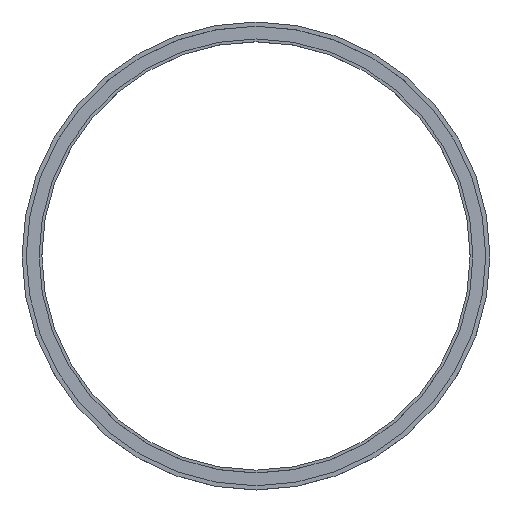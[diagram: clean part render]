
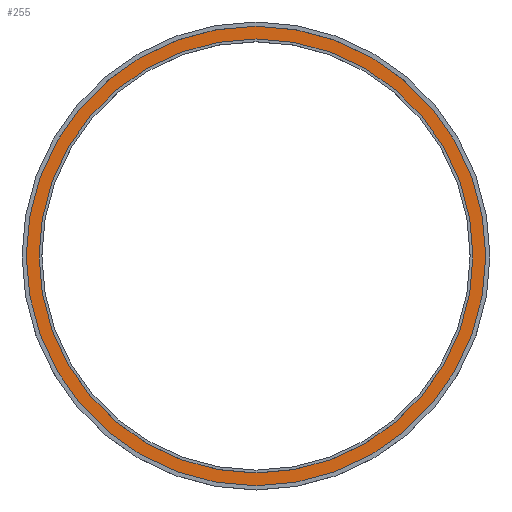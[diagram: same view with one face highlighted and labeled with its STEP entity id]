
A CAD part, top view. The second image highlights one B-rep face of the part: STEP entity #255.
In plain terms, the highlighted planar face has unit normal (0, 0, 1).
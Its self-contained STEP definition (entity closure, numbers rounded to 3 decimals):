
#209 = EDGE_CURVE('',#210,#210,#212,.T.);
#210 = VERTEX_POINT('',#211);
#211 = CARTESIAN_POINT('',(92.5,0.,-13.));
#212 = CIRCLE('',#213,92.5);
#213 = AXIS2_PLACEMENT_3D('',#214,#215,#216);
#214 = CARTESIAN_POINT('',(0.,0.,-13.));
#215 = DIRECTION('',(0.,0.,-1.));
#216 = DIRECTION('',(1.,0.,0.));
#235 = VERTEX_POINT('',#236);
#236 = CARTESIAN_POINT('',(97.95,0.,-13.));
#244 = EDGE_CURVE('',#235,#235,#245,.T.);
#245 = CIRCLE('',#246,97.95);
#246 = AXIS2_PLACEMENT_3D('',#247,#248,#249);
#247 = CARTESIAN_POINT('',(0.,0.,-13.));
#248 = DIRECTION('',(0.,0.,1.));
#249 = DIRECTION('',(1.,0.,0.));
#255 = ADVANCED_FACE('',(#256,#259),#262,.T.);
#256 = FACE_BOUND('',#257,.T.);
#257 = EDGE_LOOP('',(#258));
#258 = ORIENTED_EDGE('',*,*,#244,.T.);
#259 = FACE_BOUND('',#260,.T.);
#260 = EDGE_LOOP('',(#261));
#261 = ORIENTED_EDGE('',*,*,#209,.T.);
#262 = PLANE('',#263);
#263 = AXIS2_PLACEMENT_3D('',#264,#265,#266);
#264 = CARTESIAN_POINT('',(0.,0.,-13.));
#265 = DIRECTION('',(0.,0.,1.));
#266 = DIRECTION('',(1.,0.,0.));
